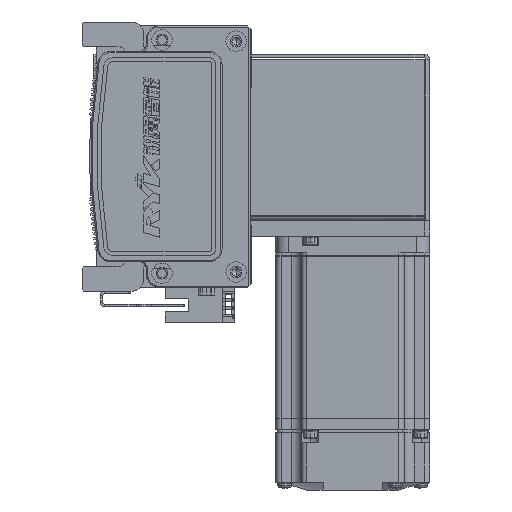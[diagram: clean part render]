
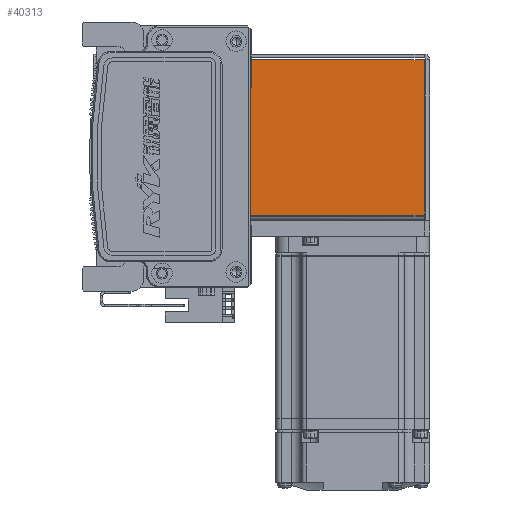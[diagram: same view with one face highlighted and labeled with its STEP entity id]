
A CAD part, left-side view. The second image highlights one B-rep face of the part: STEP entity #40313.
In plain terms, the highlighted planar face has unit normal (-1, 0, 0) as drawn and (0, 0, -1) by its records, which use the part's own axes.
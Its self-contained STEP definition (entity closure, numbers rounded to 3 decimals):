
#1063 = EDGE_CURVE ( 'NONE', #16446, #25732, #73962, .T. ) ;
#2658 = AXIS2_PLACEMENT_3D ( 'NONE', #37217, #66177, #19457 ) ;
#5144 = LINE ( 'NONE', #8754, #31153 ) ;
#5483 = CARTESIAN_POINT ( 'NONE',  ( 30.263, 72.5, -35. ) ) ;
#8754 = CARTESIAN_POINT ( 'NONE',  ( 30.263, 72.5, -35. ) ) ;
#10146 = ORIENTED_EDGE ( 'NONE', *, *, #1063, .T. ) ;
#12864 = CARTESIAN_POINT ( 'NONE',  ( 30.263, 0.737, -35. ) ) ;
#16446 = VERTEX_POINT ( 'NONE', #18409 ) ;
#17775 = CARTESIAN_POINT ( 'NONE',  ( 0., 72.5, -35. ) ) ;
#18409 = CARTESIAN_POINT ( 'NONE',  ( -30.293, 0.737, -35. ) ) ;
#19457 = DIRECTION ( 'NONE',  ( 0., -1., 0. ) ) ;
#21782 = LINE ( 'NONE', #71185, #42444 ) ;
#25135 = DIRECTION ( 'NONE',  ( 0., -1., 0. ) ) ;
#25732 = VERTEX_POINT ( 'NONE', #37233 ) ;
#31153 = VECTOR ( 'NONE', #25135, 1000. ) ;
#36660 = VERTEX_POINT ( 'NONE', #5483 ) ;
#36965 = DIRECTION ( 'NONE',  ( 1., 0., 0. ) ) ;
#37217 = CARTESIAN_POINT ( 'NONE',  ( 0., 0., -35. ) ) ;
#37233 = CARTESIAN_POINT ( 'NONE',  ( -30.293, 72.5, -35. ) ) ;
#40313 = ADVANCED_FACE ( 'NONE', ( #72576 ), #53968, .F. ) ;
#42358 = VERTEX_POINT ( 'NONE', #12864 ) ;
#42444 = VECTOR ( 'NONE', #36965, 1000. ) ;
#44120 = ORIENTED_EDGE ( 'NONE', *, *, #68433, .T. ) ;
#53500 = LINE ( 'NONE', #17775, #72279 ) ;
#53968 = PLANE ( 'NONE',  #2658 ) ;
#55011 = EDGE_CURVE ( 'NONE', #25732, #36660, #53500, .T. ) ;
#55988 = ORIENTED_EDGE ( 'NONE', *, *, #71346, .F. ) ;
#58765 = VECTOR ( 'NONE', #70212, 1000. ) ;
#63737 = CARTESIAN_POINT ( 'NONE',  ( -30.293, 0., -35. ) ) ;
#66177 = DIRECTION ( 'NONE',  ( 0., 0., 1. ) ) ;
#67339 = EDGE_LOOP ( 'NONE', ( #44120, #55988, #10146, #67558 ) ) ;
#67558 = ORIENTED_EDGE ( 'NONE', *, *, #55011, .T. ) ;
#68433 = EDGE_CURVE ( 'NONE', #36660, #42358, #5144, .T. ) ;
#68569 = DIRECTION ( 'NONE',  ( 1., 0., 0. ) ) ;
#70212 = DIRECTION ( 'NONE',  ( 0., 1., 0. ) ) ;
#71185 = CARTESIAN_POINT ( 'NONE',  ( 32.5, 0.737, -35. ) ) ;
#71346 = EDGE_CURVE ( 'NONE', #16446, #42358, #21782, .T. ) ;
#72279 = VECTOR ( 'NONE', #68569, 1000. ) ;
#72576 = FACE_OUTER_BOUND ( 'NONE', #67339, .T. ) ;
#73962 = LINE ( 'NONE', #63737, #58765 ) ;
